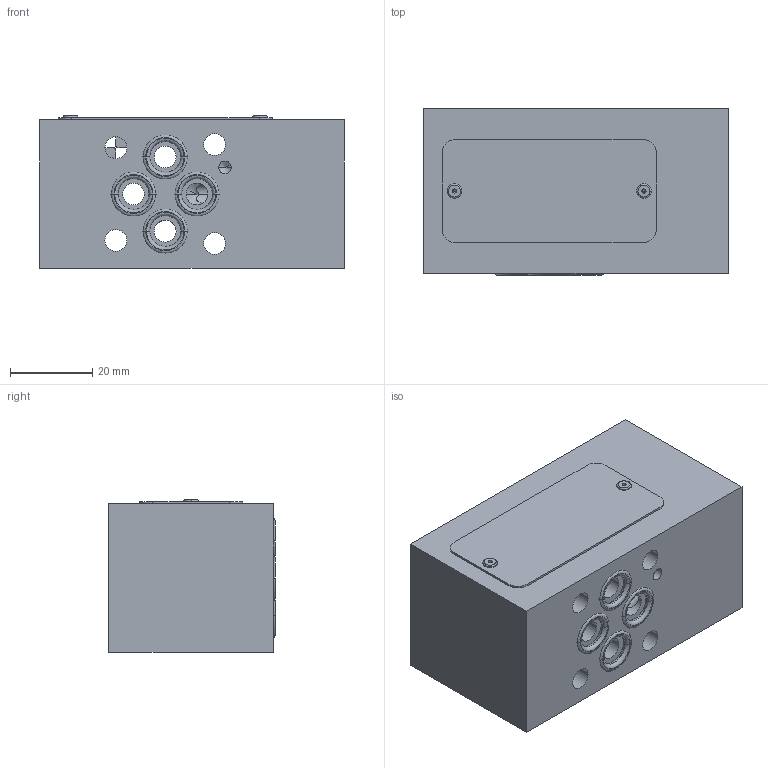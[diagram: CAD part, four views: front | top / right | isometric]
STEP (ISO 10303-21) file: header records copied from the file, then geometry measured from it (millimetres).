
FILE_DESCRIPTION((''),'2;1');
FILE_NAME('31509500_ASM','2023-10-12T',('l.soukupova'),(''),'PRO/ENGINEER BY PARAMETRIC TECHNOLOGY CORPORATION, 2015440','PRO/ENGINEER BY PARAMETRIC TECHNOLOGY CORPORATION, 2015440','');
FILE_SCHEMA(('AUTOMOTIVE_DESIGN { 1 0 10303 214 1 1 1 1 }'));
Length unit declared in the file: millimetre
Products named in the file (8): 31509401; RD_LABEL_25X52_159703; AF_1932_16485; ORIA00750_292673_AF8; ORIA00750_292673_AF9; ORIA00750_292673_AF10; ORIA00750_292673_AF11; 31509500_ASM
Assembly tree (8 placements, depth 2):
  31509500_ASM
    31509401
    RD_LABEL_25X52_159703
    AF_1932_16485  x2
    ORIA00750_292673_AF8
    ORIA00750_292673_AF9
    ORIA00750_292673_AF10
    ORIA00750_292673_AF11
Bounding box: 74 x 40.4 x 37 mm (x, y, z)
Volume: 92820.9 mm3; surface area: 25231.7 mm2
Topology: 8 solids, 11 shells, 175 faces, 547 edges, 458 vertices
Faces by surface type: cylinder 84, torus 36, plane 34, cone 21
Entity records: 8924 total; most frequent: CARTESIAN_POINT 1644, DIRECTION 1170, ORIENTED_EDGE 742, AXIS2_PLACEMENT_3D 468, PRESENTATION_STYLE_ASSIGNMENT 420, EDGE_CURVE 377, STYLED_ITEM 350, CURVE_STYLE 317
